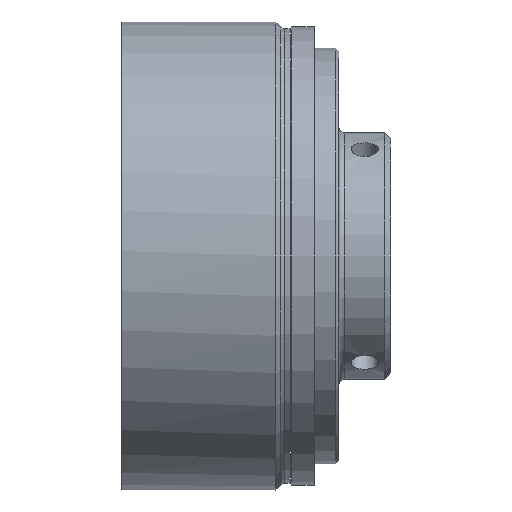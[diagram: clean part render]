
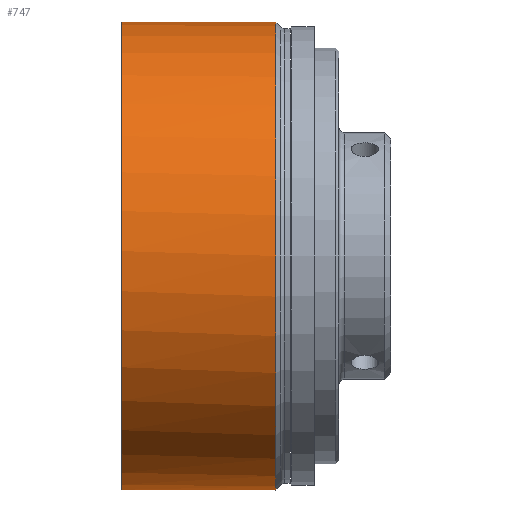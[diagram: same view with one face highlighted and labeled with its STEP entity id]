
A CAD part, front view. The second image highlights one B-rep face of the part: STEP entity #747.
In plain terms, the highlighted cylindrical face has radius 36 mm (diameter 72 mm), a full revolution.
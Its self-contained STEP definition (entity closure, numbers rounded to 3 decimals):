
#6 = CARTESIAN_POINT ( 'NONE',  ( 11.5, 35.93, -2.25 ) ) ;
#15 = DIRECTION ( 'NONE',  ( 0., 0., 1. ) ) ;
#64 = VERTEX_POINT ( 'NONE', #943 ) ;
#79 = DIRECTION ( 'NONE',  ( 0., 0., 1. ) ) ;
#170 = DIRECTION ( 'NONE',  ( 0., 0., 1. ) ) ;
#265 = FACE_OUTER_BOUND ( 'NONE', #1759, .T. ) ;
#273 = ORIENTED_EDGE ( 'NONE', *, *, #1334, .F. ) ;
#298 = EDGE_CURVE ( 'NONE', #1954, #1226, #383, .T. ) ;
#355 = CYLINDRICAL_SURFACE ( 'NONE', #1696, 36. ) ;
#383 = CIRCLE ( 'NONE', #1260, 36. ) ;
#438 = DIRECTION ( 'NONE',  ( -1., 0., 0. ) ) ;
#448 = DIRECTION ( 'NONE',  ( 0., 0., 1. ) ) ;
#602 = CIRCLE ( 'NONE', #922, 36. ) ;
#616 = CARTESIAN_POINT ( 'NONE',  ( 0., 0., 0. ) ) ;
#639 = VECTOR ( 'NONE', #838, 1000. ) ;
#747 = ADVANCED_FACE ( 'NONE', ( #265, #1581 ), #355, .T. ) ;
#748 = DIRECTION ( 'NONE',  ( -1., 0., 0. ) ) ;
#838 = DIRECTION ( 'NONE',  ( -1., 0., 0. ) ) ;
#922 = AXIS2_PLACEMENT_3D ( 'NONE', #2177, #748, #15 ) ;
#943 = CARTESIAN_POINT ( 'NONE',  ( 0., 35.93, 2.25 ) ) ;
#990 = DIRECTION ( 'NONE',  ( -1., 0., 0. ) ) ;
#1030 = EDGE_LOOP ( 'NONE', ( #1481 ) ) ;
#1032 = CARTESIAN_POINT ( 'NONE',  ( 11.5, 35.93, 2.25 ) ) ;
#1178 = CIRCLE ( 'NONE', #2137, 36. ) ;
#1226 = VERTEX_POINT ( 'NONE', #1281 ) ;
#1237 = EDGE_CURVE ( 'NONE', #1226, #2087, #1397, .T. ) ;
#1247 = DIRECTION ( 'NONE',  ( -1., 0., 0. ) ) ;
#1260 = AXIS2_PLACEMENT_3D ( 'NONE', #1264, #1247, #170 ) ;
#1264 = CARTESIAN_POINT ( 'NONE',  ( 11.5, 0., 0. ) ) ;
#1281 = CARTESIAN_POINT ( 'NONE',  ( 11.5, 35.93, -2.25 ) ) ;
#1334 = EDGE_CURVE ( 'NONE', #2087, #64, #1178, .T. ) ;
#1353 = VECTOR ( 'NONE', #1623, 1000. ) ;
#1381 = CARTESIAN_POINT ( 'NONE',  ( 0., 0., 0. ) ) ;
#1393 = LINE ( 'NONE', #2222, #639 ) ;
#1394 = EDGE_CURVE ( 'NONE', #1954, #64, #1393, .T. ) ;
#1397 = LINE ( 'NONE', #6, #1353 ) ;
#1481 = ORIENTED_EDGE ( 'NONE', *, *, #2204, .T. ) ;
#1547 = ORIENTED_EDGE ( 'NONE', *, *, #1237, .F. ) ;
#1581 = FACE_OUTER_BOUND ( 'NONE', #1030, .T. ) ;
#1614 = CARTESIAN_POINT ( 'NONE',  ( 0., 35.93, -2.25 ) ) ;
#1623 = DIRECTION ( 'NONE',  ( -1., 0., 0. ) ) ;
#1696 = AXIS2_PLACEMENT_3D ( 'NONE', #616, #438, #448 ) ;
#1759 = EDGE_LOOP ( 'NONE', ( #1547, #2102, #1800, #273 ) ) ;
#1800 = ORIENTED_EDGE ( 'NONE', *, *, #1394, .T. ) ;
#1947 = CARTESIAN_POINT ( 'NONE',  ( 23.7, 0., 36. ) ) ;
#1954 = VERTEX_POINT ( 'NONE', #1032 ) ;
#2087 = VERTEX_POINT ( 'NONE', #1614 ) ;
#2102 = ORIENTED_EDGE ( 'NONE', *, *, #298, .F. ) ;
#2137 = AXIS2_PLACEMENT_3D ( 'NONE', #1381, #990, #79 ) ;
#2177 = CARTESIAN_POINT ( 'NONE',  ( 23.7, 0., 0. ) ) ;
#2204 = EDGE_CURVE ( 'NONE', #2272, #2272, #602, .T. ) ;
#2222 = CARTESIAN_POINT ( 'NONE',  ( 11.5, 35.93, 2.25 ) ) ;
#2272 = VERTEX_POINT ( 'NONE', #1947 ) ;
